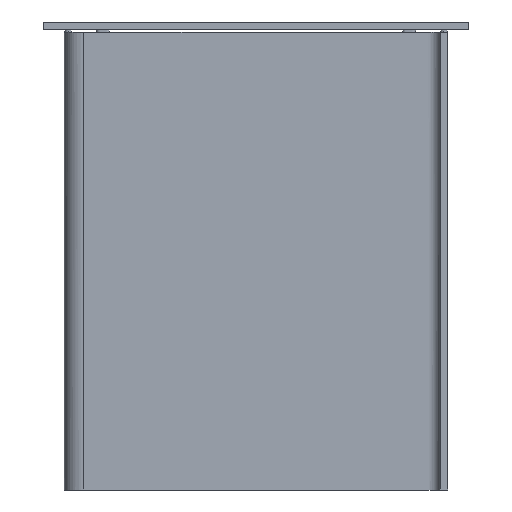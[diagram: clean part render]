
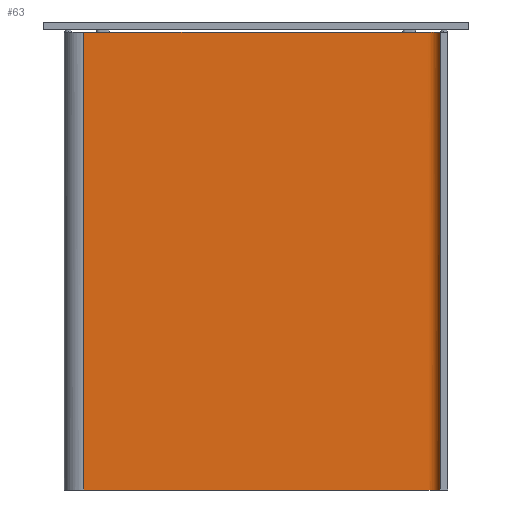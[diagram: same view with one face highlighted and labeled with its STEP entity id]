
A CAD part, left-side view. The second image highlights one B-rep face of the part: STEP entity #63.
In plain terms, the highlighted free-form (B-spline) face has degree [2, 1] with [7, 2] control points.
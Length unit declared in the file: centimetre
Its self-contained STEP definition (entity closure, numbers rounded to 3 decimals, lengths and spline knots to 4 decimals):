
#63=ADVANCED_FACE($,(#111),#527,.T.);
#111=FACE_OUTER_BOUND($,#159,.T.);
#159=EDGE_LOOP($,(#272,#273,#274,#275));
#272=ORIENTED_EDGE($,*,*,#402,.T.);
#273=ORIENTED_EDGE($,*,*,#398,.T.);
#274=ORIENTED_EDGE($,*,*,#392,.F.);
#275=ORIENTED_EDGE($,*,*,#391,.T.);
#391=EDGE_CURVE($,#464,#469,#606,.T.);
#392=EDGE_CURVE($,#464,#465,#567,.T.);
#398=EDGE_CURVE($,#470,#465,#610,.T.);
#402=EDGE_CURVE($,#469,#470,#572,.T.);
#464=VERTEX_POINT($,#1313);
#465=VERTEX_POINT($,#1314);
#469=VERTEX_POINT($,#1318);
#470=VERTEX_POINT($,#1319);
#527=(
BOUNDED_SURFACE()
B_SPLINE_SURFACE(2,1,((#1265,#1266),(#1267,#1268),(#1269,#1270),(#1271,#1272),
(#1273,#1274),(#1275,#1276),(#1277,#1278)),.UNSPECIFIED.,.F.,.F.,.F.)
B_SPLINE_SURFACE_WITH_KNOTS((3,2,2,3),(2,2),(-56.5,-3.,-0.1726,
5.8274),(0.,71.),.UNSPECIFIED.)
GEOMETRIC_REPRESENTATION_ITEM()
RATIONAL_B_SPLINE_SURFACE(((1.,1.),(1.,1.),(1.,1.),(0.707,0.707),
(1.,1.),(1.,1.),(1.,1.)))
REPRESENTATION_ITEM($)
SURFACE()
);
#567=B_SPLINE_CURVE_WITH_KNOTS($,1,(#1208,#1209),.UNSPECIFIED.,.F.,.F.,(2,
2),(0.,71.),.UNSPECIFIED.);
#572=B_SPLINE_CURVE_WITH_KNOTS($,1,(#1257,#1258),.UNSPECIFIED.,.F.,.F.,(2,
2),(0.,71.),.UNSPECIFIED.);
#606=(
BOUNDED_CURVE()
B_SPLINE_CURVE(2,(#1201,#1202,#1203,#1204,#1205,#1206,#1207),.UNSPECIFIED.,
.F.,.F.)
B_SPLINE_CURVE_WITH_KNOTS((3,2,2,3),(-56.5,-3.,-0.1726,5.8274),
.UNSPECIFIED.)
CURVE()
GEOMETRIC_REPRESENTATION_ITEM()
RATIONAL_B_SPLINE_CURVE((1.,1.,1.,0.707,1.,1.,1.))
REPRESENTATION_ITEM($)
);
#610=(
BOUNDED_CURVE()
B_SPLINE_CURVE(2,(#1235,#1236,#1237,#1238,#1239,#1240,#1241),.UNSPECIFIED.,
.F.,.F.)
B_SPLINE_CURVE_WITH_KNOTS((3,2,2,3),(-5.8274,0.1726,
3.,56.5),.UNSPECIFIED.)
CURVE()
GEOMETRIC_REPRESENTATION_ITEM()
RATIONAL_B_SPLINE_CURVE((1.,1.,1.,0.707,1.,1.,1.))
REPRESENTATION_ITEM($)
);
#1201=CARTESIAN_POINT($,(11.,59.75,0.));
#1202=CARTESIAN_POINT($,(11.,33.,0.));
#1203=CARTESIAN_POINT($,(11.,6.25,0.));
#1204=CARTESIAN_POINT($,(11.,4.45,0.));
#1205=CARTESIAN_POINT($,(9.2,4.45,0.));
#1206=CARTESIAN_POINT($,(6.2,4.45,0.));
#1207=CARTESIAN_POINT($,(3.2,4.45,0.));
#1208=CARTESIAN_POINT($,(11.,59.75,0.));
#1209=CARTESIAN_POINT($,(11.,59.75,71.));
#1235=CARTESIAN_POINT($,(3.2,4.45,71.));
#1236=CARTESIAN_POINT($,(6.2,4.45,71.));
#1237=CARTESIAN_POINT($,(9.2,4.45,71.));
#1238=CARTESIAN_POINT($,(11.,4.45,71.));
#1239=CARTESIAN_POINT($,(11.,6.25,71.));
#1240=CARTESIAN_POINT($,(11.,33.,71.));
#1241=CARTESIAN_POINT($,(11.,59.75,71.));
#1257=CARTESIAN_POINT($,(3.2,4.45,0.));
#1258=CARTESIAN_POINT($,(3.2,4.45,71.));
#1265=CARTESIAN_POINT($,(11.,59.75,0.));
#1266=CARTESIAN_POINT($,(11.,59.75,71.));
#1267=CARTESIAN_POINT($,(11.,33.,0.));
#1268=CARTESIAN_POINT($,(11.,33.,71.));
#1269=CARTESIAN_POINT($,(11.,6.25,0.));
#1270=CARTESIAN_POINT($,(11.,6.25,71.));
#1271=CARTESIAN_POINT($,(11.,4.45,0.));
#1272=CARTESIAN_POINT($,(11.,4.45,71.));
#1273=CARTESIAN_POINT($,(9.2,4.45,0.));
#1274=CARTESIAN_POINT($,(9.2,4.45,71.));
#1275=CARTESIAN_POINT($,(6.2,4.45,0.));
#1276=CARTESIAN_POINT($,(6.2,4.45,71.));
#1277=CARTESIAN_POINT($,(3.2,4.45,0.));
#1278=CARTESIAN_POINT($,(3.2,4.45,71.));
#1313=CARTESIAN_POINT($,(11.,59.75,0.));
#1314=CARTESIAN_POINT($,(11.,59.75,71.));
#1318=CARTESIAN_POINT($,(3.2,4.45,0.));
#1319=CARTESIAN_POINT($,(3.2,4.45,71.));
